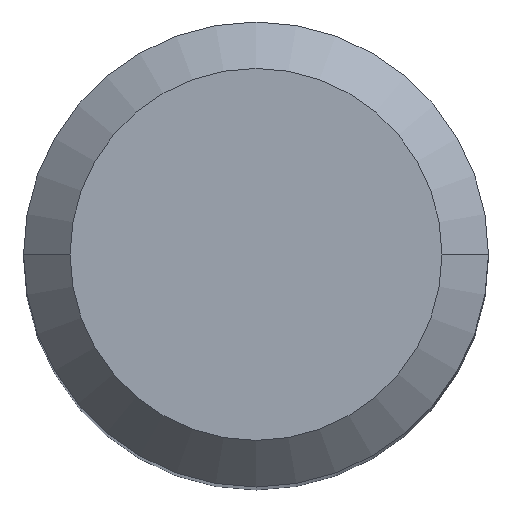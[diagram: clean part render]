
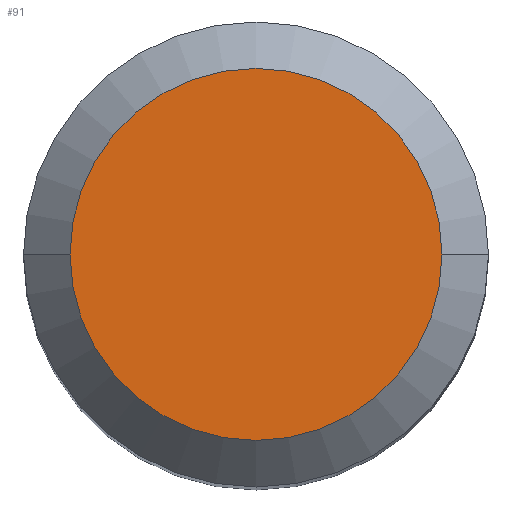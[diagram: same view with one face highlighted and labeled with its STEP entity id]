
A CAD part, top view. The second image highlights one B-rep face of the part: STEP entity #91.
In plain terms, the highlighted planar face has unit normal (0, 0, 1).
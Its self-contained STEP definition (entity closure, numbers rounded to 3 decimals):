
#6 = CIRCLE ( 'NONE', #458, 4.8 ) ;
#15 = AXIS2_PLACEMENT_3D ( 'NONE', #502, #67, #412 ) ;
#25 = DIRECTION ( 'NONE',  ( -1., 0., 0. ) ) ;
#67 = DIRECTION ( 'NONE',  ( 0., 0., 1. ) ) ;
#87 = VERTEX_POINT ( 'NONE', #109 ) ;
#91 = ADVANCED_FACE ( 'NONE', ( #113 ), #454, .T. ) ;
#109 = CARTESIAN_POINT ( 'NONE',  ( -4.8, 0., 0. ) ) ;
#111 = EDGE_CURVE ( 'NONE', #87, #184, #6, .T. ) ;
#113 = FACE_OUTER_BOUND ( 'NONE', #295, .T. ) ;
#140 = ORIENTED_EDGE ( 'NONE', *, *, #111, .F. ) ;
#154 = AXIS2_PLACEMENT_3D ( 'NONE', #252, #346, #212 ) ;
#176 = EDGE_CURVE ( 'NONE', #184, #87, #450, .T. ) ;
#184 = VERTEX_POINT ( 'NONE', #296 ) ;
#212 = DIRECTION ( 'NONE',  ( -1., 0., 0. ) ) ;
#252 = CARTESIAN_POINT ( 'NONE',  ( 0., 0., 0. ) ) ;
#277 = ORIENTED_EDGE ( 'NONE', *, *, #176, .F. ) ;
#284 = DIRECTION ( 'NONE',  ( 0., 0., -1. ) ) ;
#295 = EDGE_LOOP ( 'NONE', ( #140, #277 ) ) ;
#296 = CARTESIAN_POINT ( 'NONE',  ( 4.8, 0., 0. ) ) ;
#346 = DIRECTION ( 'NONE',  ( 0., 0., -1. ) ) ;
#402 = CARTESIAN_POINT ( 'NONE',  ( 0., 0., 0. ) ) ;
#412 = DIRECTION ( 'NONE',  ( 1., 0., 0. ) ) ;
#450 = CIRCLE ( 'NONE', #154, 4.8 ) ;
#454 = PLANE ( 'NONE',  #15 ) ;
#458 = AXIS2_PLACEMENT_3D ( 'NONE', #402, #284, #25 ) ;
#502 = CARTESIAN_POINT ( 'NONE',  ( 0., 4.8, 0. ) ) ;
